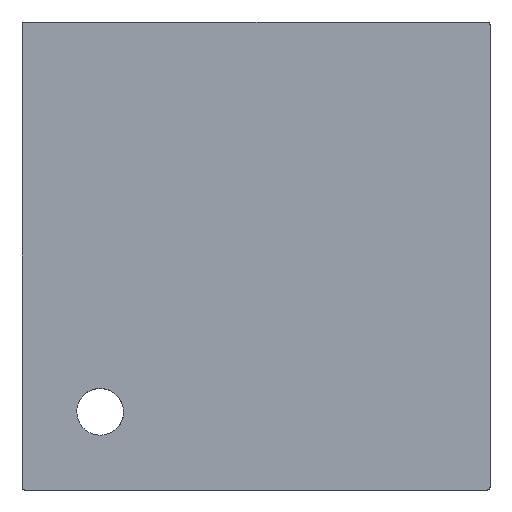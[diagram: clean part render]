
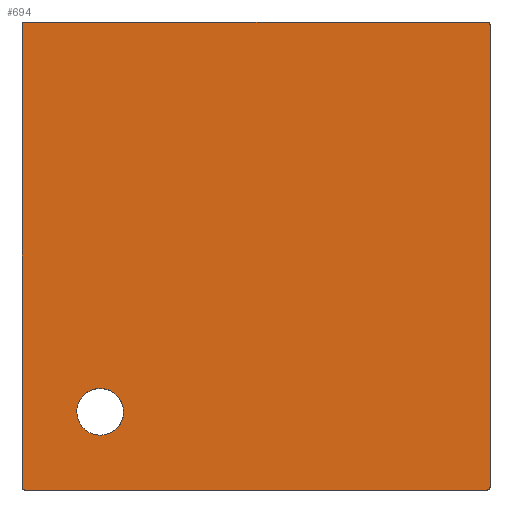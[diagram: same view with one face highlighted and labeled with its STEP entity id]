
A CAD part, front view. The second image highlights one B-rep face of the part: STEP entity #694.
In plain terms, the highlighted planar face has unit normal (0, -1, 0).
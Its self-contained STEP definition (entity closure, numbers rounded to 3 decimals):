
#19=ELLIPSE('',#745,45.003,45.);
#31=FACE_BOUND('',#147,.T.);
#42=PLANE('',#798);
#97=FACE_OUTER_BOUND('',#146,.T.);
#146=EDGE_LOOP('',(#619,#620,#621,#622,#623,#624,#625,#626));
#147=EDGE_LOOP('',(#627));
#162=LINE('',#1089,#207);
#169=LINE('',#1111,#214);
#191=LINE('',#1643,#236);
#192=LINE('',#1645,#237);
#207=VECTOR('',#871,10.);
#214=VECTOR('',#892,10.);
#236=VECTOR('',#1020,10.);
#237=VECTOR('',#1023,10.);
#238=CIRCLE('',#710,5.);
#243=CIRCLE('',#717,5.);
#248=CIRCLE('',#725,5.);
#251=CIRCLE('',#732,5.);
#284=VERTEX_POINT('',#1028);
#285=VERTEX_POINT('',#1029);
#291=VERTEX_POINT('',#1044);
#292=VERTEX_POINT('',#1045);
#298=VERTEX_POINT('',#1063);
#299=VERTEX_POINT('',#1064);
#301=VERTEX_POINT('',#1079);
#302=VERTEX_POINT('',#1080);
#315=VERTEX_POINT('',#1438);
#337=EDGE_CURVE('',#284,#285,#238,.T.);
#344=EDGE_CURVE('',#291,#292,#243,.T.);
#353=EDGE_CURVE('',#298,#299,#248,.T.);
#362=EDGE_CURVE('',#301,#302,#251,.T.);
#367=EDGE_CURVE('',#298,#285,#162,.T.);
#378=EDGE_CURVE('',#284,#302,#169,.T.);
#384=EDGE_CURVE('',#315,#315,#19,.T.);
#432=EDGE_CURVE('',#301,#292,#191,.T.);
#433=EDGE_CURVE('',#291,#299,#192,.T.);
#619=ORIENTED_EDGE('',*,*,#353,.F.);
#620=ORIENTED_EDGE('',*,*,#367,.T.);
#621=ORIENTED_EDGE('',*,*,#337,.F.);
#622=ORIENTED_EDGE('',*,*,#378,.T.);
#623=ORIENTED_EDGE('',*,*,#362,.F.);
#624=ORIENTED_EDGE('',*,*,#432,.T.);
#625=ORIENTED_EDGE('',*,*,#344,.F.);
#626=ORIENTED_EDGE('',*,*,#433,.T.);
#627=ORIENTED_EDGE('',*,*,#384,.T.);
#694=ADVANCED_FACE('',(#97,#31),#42,.F.);
#710=AXIS2_PLACEMENT_3D('',#1030,#803,#804);
#717=AXIS2_PLACEMENT_3D('',#1046,#819,#820);
#725=AXIS2_PLACEMENT_3D('',#1065,#839,#840);
#732=AXIS2_PLACEMENT_3D('',#1081,#859,#860);
#745=AXIS2_PLACEMENT_3D('',#1439,#895,#896);
#798=AXIS2_PLACEMENT_3D('',#1646,#1024,#1025);
#803=DIRECTION('center_axis',(0.,1.,0.));
#804=DIRECTION('ref_axis',(0.707,0.,0.707));
#819=DIRECTION('center_axis',(0.,1.,0.));
#820=DIRECTION('ref_axis',(-0.707,0.,-0.707));
#839=DIRECTION('center_axis',(0.,1.,0.));
#840=DIRECTION('ref_axis',(0.707,0.,-0.707));
#859=DIRECTION('center_axis',(0.,1.,0.));
#860=DIRECTION('ref_axis',(-0.707,0.,0.707));
#871=DIRECTION('',(0.,0.,1.));
#892=DIRECTION('',(-1.,0.,0.));
#895=DIRECTION('center_axis',(0.,1.,0.));
#896=DIRECTION('ref_axis',(-0.707,0.,-0.707));
#1020=DIRECTION('',(0.,0.,-1.));
#1023=DIRECTION('',(1.,0.,0.));
#1024=DIRECTION('center_axis',(0.,1.,0.));
#1025=DIRECTION('ref_axis',(1.,0.,0.));
#1028=CARTESIAN_POINT('',(445.,0.,450.));
#1029=CARTESIAN_POINT('',(450.,0.,445.));
#1030=CARTESIAN_POINT('Origin',(445.,0.,445.));
#1044=CARTESIAN_POINT('',(-445.,0.,-450.));
#1045=CARTESIAN_POINT('',(-450.,0.,-445.));
#1046=CARTESIAN_POINT('Origin',(-445.,0.,-445.));
#1063=CARTESIAN_POINT('',(450.,0.,-445.));
#1064=CARTESIAN_POINT('',(445.,0.,-450.));
#1065=CARTESIAN_POINT('Origin',(445.,0.,-445.));
#1079=CARTESIAN_POINT('',(-450.,0.,445.));
#1080=CARTESIAN_POINT('',(-445.,0.,450.));
#1081=CARTESIAN_POINT('Origin',(-445.,0.,445.));
#1089=CARTESIAN_POINT('',(450.,0.,-450.));
#1111=CARTESIAN_POINT('',(450.,0.,450.));
#1438=CARTESIAN_POINT('',(-267.758,0.,-267.758));
#1439=CARTESIAN_POINT('Origin',(-299.579,0.,-299.579));
#1643=CARTESIAN_POINT('',(-450.,0.,450.));
#1645=CARTESIAN_POINT('',(-450.,0.,-450.));
#1646=CARTESIAN_POINT('Origin',(0.,0.,0.));
